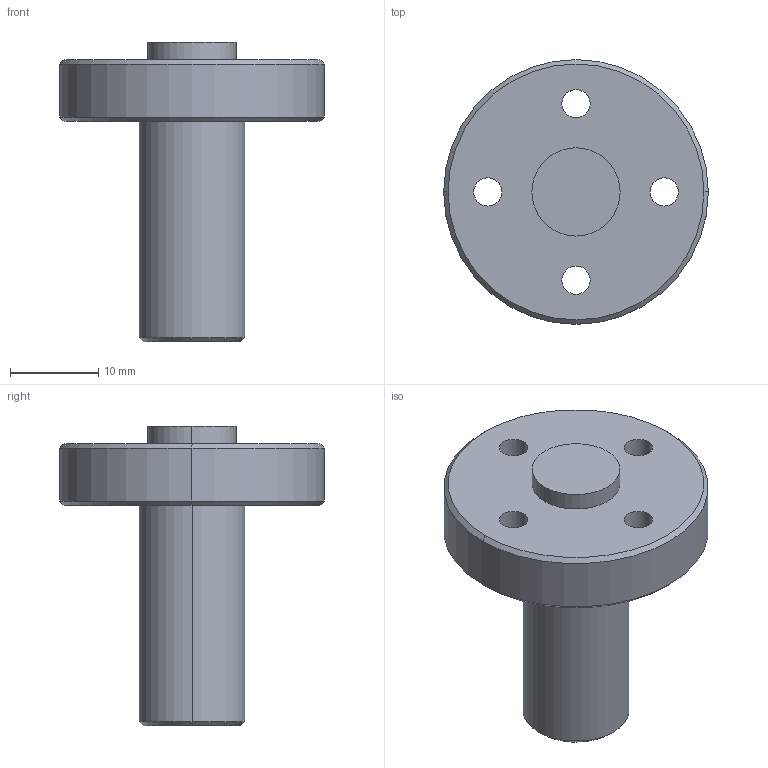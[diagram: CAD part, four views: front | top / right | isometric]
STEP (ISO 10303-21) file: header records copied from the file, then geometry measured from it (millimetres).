
FILE_DESCRIPTION(('CATIA V5 STEP Exchange'),'2;1');
FILE_NAME('E:\够快云库\系统集成开发部\1.部门成员\姚明阳\工装\升降气阀工装零件3D数模_20.10.20.02\GZ07.18_V1.stp','2020-10-22T04:33:51+00:00',('none'),('none'),'CATIA Version 5 Release 21 GA (IN-10)','CATIA V5 STEP AP214','none');
FILE_SCHEMA(('AUTOMOTIVE_DESIGN { 1 0 10303 214 1 1 1 1 }'));
Length unit declared in the file: millimetre
Products named in the file (1): GZ07.13_V1.1.2
Bounding box: 30 x 30 x 34 mm (x, y, z)
Volume: 7355.7 mm3; surface area: 3369.4 mm2
Topology: 1 solids, 1 shells, 36 faces, 78 edges, 50 vertices
Faces by surface type: cylinder 22, plane 8, cone 6
Entity records: 922 total; most frequent: ORIENTED_EDGE 156, CARTESIAN_POINT 151, DIRECTION 122, EDGE_CURVE 78, AXIS2_PLACEMENT_3D 73, CIRCLE 50, EDGE_LOOP 50, VERTEX_POINT 50
